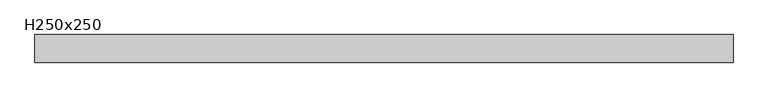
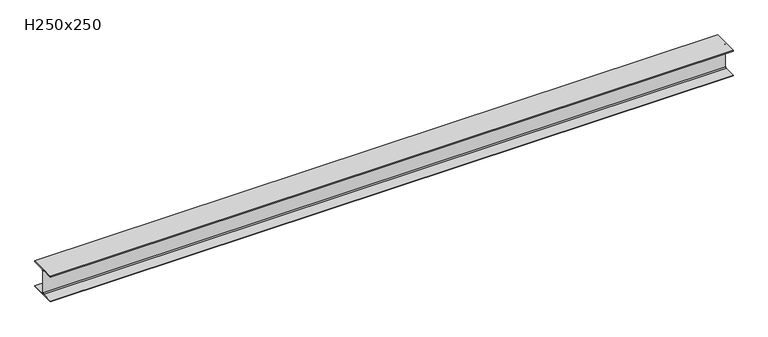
"""IFC4 building model written with IfcOpenShell, lengths in millimetres: beam geometry, H型鋼樑 : H250x250."""

from ifc_helpers import new_model, si_unit, point, frame, frame_2d, origin, place, context, project, spatial, polyline, circle_curve, trimmed, segment, composite_curve, outline, extrude, source, transform, mapped, element, save


def h250x250_42108681(model_context):
    return source(origin(), model_context, "Body", "SweptSolid", [
        extrude(outline(composite_curve([segment(polyline([(-125.0, 0.0), (125.0, 0.0), (125.0, -8.0), (13.0, -8.0)]), True, "CONTINUOUS"), segment(trimmed(circle_curve(frame_2d((13.0, -18.0)), 10.0), [point((13.0, -8.0))], [point((3.0, -18.0))], True, "CARTESIAN"), True, "CONTINUOUS"), segment(polyline([(3.0, -18.0), (3.0, -232.0)]), True, "CONTINUOUS"), segment(trimmed(circle_curve(frame_2d((13.0, -232.0)), 10.0), [point((3.0, -232.0))], [point((13.0, -242.0))], True, "CARTESIAN"), True, "CONTINUOUS"), segment(polyline([(13.0, -242.0), (125.0, -242.0), (125.0, -250.0), (-125.0, -250.0), (-125.0, -242.0), (-13.0, -242.0)]), True, "CONTINUOUS"), segment(trimmed(circle_curve(frame_2d((-13.0, -232.0)), 10.0), [point((-13.0, -242.0))], [point((-3.0, -232.0))], True, "CARTESIAN"), True, "CONTINUOUS"), segment(polyline([(-3.0, -232.0), (-3.0, -18.0)]), True, "CONTINUOUS"), segment(trimmed(circle_curve(frame_2d((-13.0, -18.0)), 10.0), [point((-3.0, -18.0))], [point((-13.0, -8.0))], True, "CARTESIAN"), True, "CONTINUOUS"), segment(polyline([(-13.0, -8.0), (-125.0, -8.0), (-125.0, 0.0)]), True, "CONTINUOUS")], self_intersect=False)), frame((-3162.3, 0.0, 0.0), z_axis=(1.0, 0.0, 0.0), x_axis=(0.0, 1.0, 0.0)), (0.0, 0.0, 1.0), 6324.6),
    ])


if __name__ == "__main__":
    model = new_model("IFC4")
    model_context = context("Model", 3, world=origin())
    ifc_project = project(units=[si_unit("LENGTHUNIT", "METRE", prefix="MILLI")], contexts=[model_context])
    site = spatial("IfcSite", under=ifc_project)
    building = spatial("IfcBuilding", under=site)
    placement = place(None, origin())
    h250x250_shape = h250x250_42108681(model_context)
    element("IfcBeam", 1, ObjectType="H型鋼樑 : H250x250", at=placement, inside=building, context=model_context, shape_type="MappedRepresentation", body=[
        mapped(h250x250_shape, transform((0.0, 0.0, 0.0), x_axis=(1.0, 0.0, 0.0), y_axis=(0.0, 1.0, 0.0), z_axis=(0.0, 0.0, 1.0))),
    ])
    save(model, "model.ifc")
